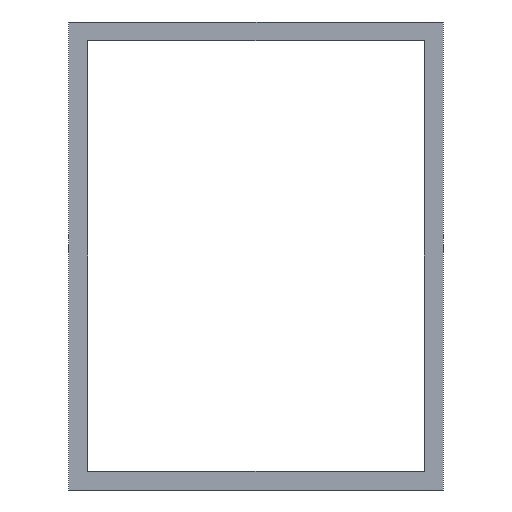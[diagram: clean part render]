
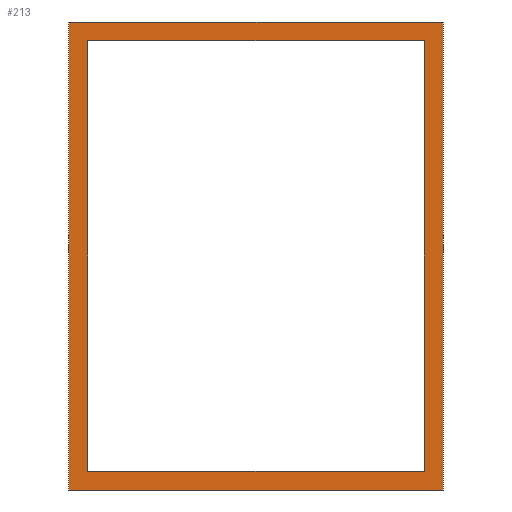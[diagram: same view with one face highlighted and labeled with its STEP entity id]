
A CAD part, left-side view. The second image highlights one B-rep face of the part: STEP entity #213.
In plain terms, the highlighted planar face has unit normal (-1, 0, 0).
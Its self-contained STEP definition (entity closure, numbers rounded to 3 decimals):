
#27=CARTESIAN_POINT('',(-617.0,298.822,30.0));
#28=VERTEX_POINT('',#27);
#45=CARTESIAN_POINT('',(-617.0,298.822,130.0));
#46=VERTEX_POINT('',#45);
#53=CARTESIAN_POINT('',(-617.0,298.822,30.0));
#54=DIRECTION('',(0.0,0.0,1.0));
#55=VECTOR('',#54,1.);
#56=LINE('',#53,#55);
#57=EDGE_CURVE('',#28,#46,#56,.T.);
#132=CARTESIAN_POINT('',(-617.0,378.822,30.0));
#133=VERTEX_POINT('',#132);
#140=CARTESIAN_POINT('',(-617.0,378.822,130.0));
#141=VERTEX_POINT('',#140);
#142=CARTESIAN_POINT('',(-617.0,378.822,30.0));
#143=DIRECTION('',(0.0,0.0,1.0));
#144=VECTOR('',#143,1.);
#145=LINE('',#142,#144);
#146=EDGE_CURVE('',#133,#141,#145,.T.);
#158=CARTESIAN_POINT('',(-617.0,378.822,30.0));
#159=DIRECTION('',(-1.0,0.0,0.0));
#160=DIRECTION('',(0.0,-1.0,0.0));
#161=AXIS2_PLACEMENT_3D('',#158,#159,#160);
#162=PLANE('',#161);
#163=CARTESIAN_POINT('',(-617.0,378.822,30.0));
#164=DIRECTION('',(0.,-1.0,0.0));
#165=VECTOR('',#164,1.);
#166=LINE('',#163,#165);
#167=EDGE_CURVE('',#133,#28,#166,.T.);
#168=ORIENTED_EDGE('',*,*,#167,.T.);
#169=ORIENTED_EDGE('',*,*,#57,.T.);
#170=CARTESIAN_POINT('',(-617.0,378.822,130.0));
#171=DIRECTION('',(0.,-1.0,0.0));
#172=VECTOR('',#171,1.);
#173=LINE('',#170,#172);
#174=EDGE_CURVE('',#141,#46,#173,.T.);
#175=ORIENTED_EDGE('',*,*,#174,.F.);
#176=ORIENTED_EDGE('',*,*,#146,.F.);
#177=EDGE_LOOP('',(#168,#169,#175,#176));
#178=FACE_OUTER_BOUND('',#177,.T.);
#179=CARTESIAN_POINT('',(-617.0,302.822,34.0));
#180=VERTEX_POINT('',#179);
#181=CARTESIAN_POINT('',(-617.0,374.822,34.));
#182=VERTEX_POINT('',#181);
#183=CARTESIAN_POINT('',(-617.0,302.822,34.0));
#184=DIRECTION('',(0.0,1.0,0.0));
#185=VECTOR('',#184,1.);
#186=LINE('',#183,#185);
#187=EDGE_CURVE('',#180,#182,#186,.T.);
#188=ORIENTED_EDGE('',*,*,#187,.T.);
#189=CARTESIAN_POINT('',(-617.0,374.822,126.0));
#190=VERTEX_POINT('',#189);
#191=CARTESIAN_POINT('',(-617.0,374.822,126.0));
#192=DIRECTION('',(0.0,0.0,-1.0));
#193=VECTOR('',#192,1.);
#194=LINE('',#191,#193);
#195=EDGE_CURVE('',#190,#182,#194,.T.);
#196=ORIENTED_EDGE('',*,*,#195,.F.);
#197=CARTESIAN_POINT('',(-617.0,302.822,126.));
#198=VERTEX_POINT('',#197);
#199=CARTESIAN_POINT('',(-617.0,302.822,126.0));
#200=DIRECTION('',(0.0,1.0,0.0));
#201=VECTOR('',#200,1.);
#202=LINE('',#199,#201);
#203=EDGE_CURVE('',#198,#190,#202,.T.);
#204=ORIENTED_EDGE('',*,*,#203,.F.);
#205=CARTESIAN_POINT('',(-617.0,302.822,34.0));
#206=DIRECTION('',(0.0,0.0,1.0));
#207=VECTOR('',#206,1.);
#208=LINE('',#205,#207);
#209=EDGE_CURVE('',#180,#198,#208,.T.);
#210=ORIENTED_EDGE('',*,*,#209,.F.);
#211=EDGE_LOOP('',(#188,#196,#204,#210));
#212=FACE_BOUND('',#211,.T.);
#213=ADVANCED_FACE('',(#178,#212),#162,.T.);
